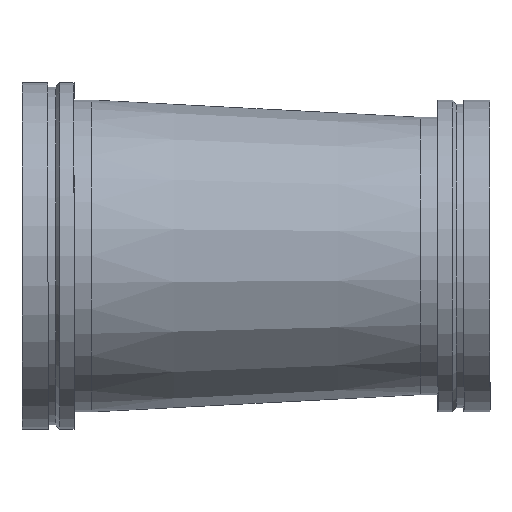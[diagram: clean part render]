
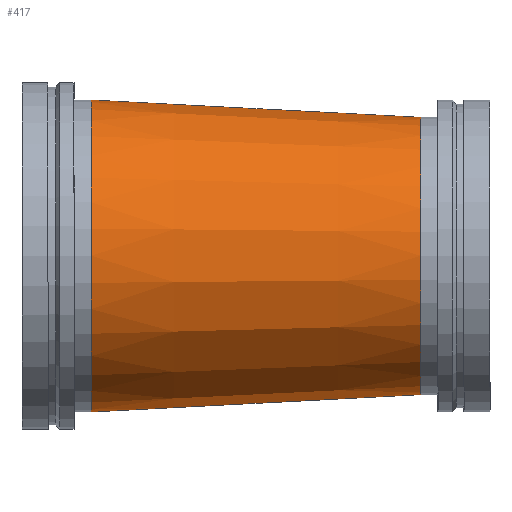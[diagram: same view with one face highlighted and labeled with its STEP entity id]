
A CAD part, top view. The second image highlights one B-rep face of the part: STEP entity #417.
In plain terms, the highlighted conical face has half-angle 3.013 degrees and reference radius 215.9 mm.
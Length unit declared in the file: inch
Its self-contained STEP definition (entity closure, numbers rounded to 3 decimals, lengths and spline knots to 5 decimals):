
#46=CONICAL_SURFACE('',#475,8.5,0.053);
#54=LINE('',#739,#68);
#68=VECTOR('',#587,8.5);
#101=FACE_OUTER_BOUND('',#124,.T.);
#124=EDGE_LOOP('',(#315,#316,#317,#318,#319,#320));
#155=CIRCLE('',#473,9.);
#156=CIRCLE('',#474,9.);
#157=CIRCLE('',#476,8.);
#158=CIRCLE('',#477,8.);
#195=VERTEX_POINT('',#729);
#196=VERTEX_POINT('',#730);
#197=VERTEX_POINT('',#735);
#198=VERTEX_POINT('',#736);
#239=EDGE_CURVE('',#195,#196,#155,.T.);
#240=EDGE_CURVE('',#196,#195,#156,.T.);
#242=EDGE_CURVE('',#197,#198,#157,.T.);
#243=EDGE_CURVE('',#198,#197,#158,.T.);
#244=EDGE_CURVE('',#198,#196,#54,.T.);
#315=ORIENTED_EDGE('',*,*,#242,.F.);
#316=ORIENTED_EDGE('',*,*,#243,.F.);
#317=ORIENTED_EDGE('',*,*,#244,.T.);
#318=ORIENTED_EDGE('',*,*,#240,.T.);
#319=ORIENTED_EDGE('',*,*,#239,.T.);
#320=ORIENTED_EDGE('',*,*,#244,.F.);
#417=ADVANCED_FACE('',(#101),#46,.T.);
#473=AXIS2_PLACEMENT_3D('',#731,#576,#577);
#474=AXIS2_PLACEMENT_3D('',#732,#578,#579);
#475=AXIS2_PLACEMENT_3D('',#734,#581,#582);
#476=AXIS2_PLACEMENT_3D('',#737,#583,#584);
#477=AXIS2_PLACEMENT_3D('',#738,#585,#586);
#576=DIRECTION('center_axis',(1.,0.,0.));
#577=DIRECTION('ref_axis',(0.,0.,-1.));
#578=DIRECTION('center_axis',(1.,0.,0.));
#579=DIRECTION('ref_axis',(0.,0.,-1.));
#581=DIRECTION('center_axis',(-1.,0.,0.));
#582=DIRECTION('ref_axis',(0.,1.,0.));
#583=DIRECTION('center_axis',(1.,0.,0.));
#584=DIRECTION('ref_axis',(0.,0.,-1.));
#585=DIRECTION('center_axis',(1.,0.,0.));
#586=DIRECTION('ref_axis',(0.,0.,-1.));
#587=DIRECTION('',(-0.999,-0.053,0.));
#729=CARTESIAN_POINT('',(4.,9.,0.));
#730=CARTESIAN_POINT('',(4.,-9.,0.));
#731=CARTESIAN_POINT('Origin',(4.,0.,0.));
#732=CARTESIAN_POINT('Origin',(4.,0.,0.));
#734=CARTESIAN_POINT('Origin',(13.5,0.,0.));
#735=CARTESIAN_POINT('',(23.,8.,0.));
#736=CARTESIAN_POINT('',(23.,-8.,0.));
#737=CARTESIAN_POINT('Origin',(23.,0.,0.));
#738=CARTESIAN_POINT('Origin',(23.,0.,0.));
#739=CARTESIAN_POINT('',(13.5,-8.5,0.));
